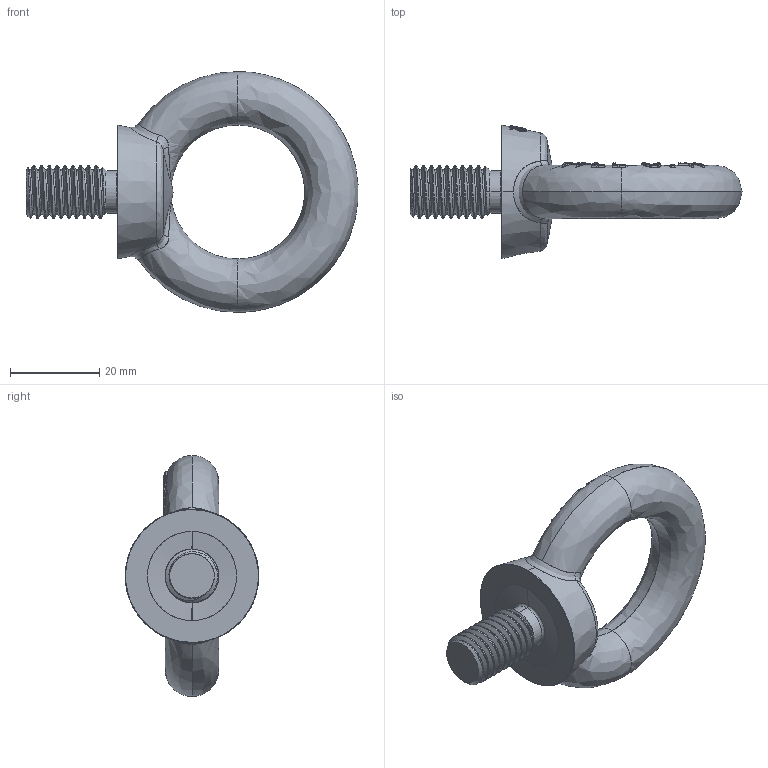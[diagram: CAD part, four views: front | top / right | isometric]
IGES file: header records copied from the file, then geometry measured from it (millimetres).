
Start section: SolidWorks IGES file using analytic representation for surfaces
Global section: file name: C:\Users\Brenton\Documents\Townley\IS Eye Bolt\M12\GPEBM12.IGS; native system: SolidWorks 2012; preprocessor: SolidWorks 2012; author: Brenton; date: 141218.132216; units: millimetre
Bounding box: 74.45 x 29.95 x 54 mm (x, y, z)
Surface area: 7178.8 mm2 (no closed solid volume)
Topology: 0 solids, 0 shells, 353 faces, 5077 edges, 5073 vertices
Faces by surface type: bspline 317, revolution 36
